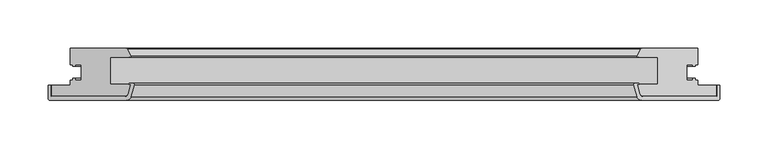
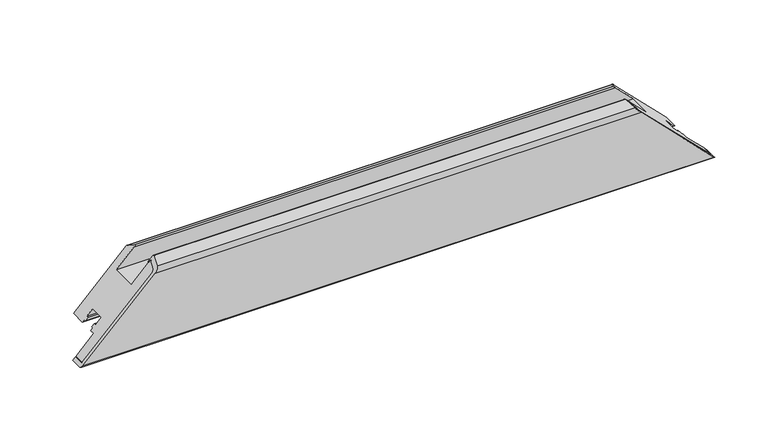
"""IFC4 building model written with IfcOpenShell, lengths in millimetres: proxy geometry, Weiku - Montante - Folha 02.2.01.018 : Weiku - Montante - Folha 02.2.01.018."""

from ifc_helpers import new_model, si_unit, frame, origin, place, context, project, spatial, polyline, ellipse_curve, source, transform, mapped, element, save
from ifc_brep_helpers import plane_surface, cylinder_surface, revolved_surface, advanced_brep


def generic_models_07a8e8d2(model_context):
    return source(origin(), model_context, "Body", "AdvancedBrep", [
        advanced_brep(
        [(345.25, -50.0, 0.0), (-345.25, -50.0, 0.0), (-268.2497332, -50.0, 77.0002668), (268.2497332, -50.0, 77.0002668), (-265.3519557, -47.7764571, 79.8980443), (265.3519557, -47.7764571, 79.8980443), (-262.7670371, -38.1294095, 82.4829629), (262.7670371, -38.1294095, 82.4829629), (-263.25, -37.5, 82.0), (263.25, -37.5, 82.0), (-264.1060102, -37.5, 81.1439898), (264.1060102, -37.5, 81.1439898), (-264.1060102, -36.5, 81.1439898), (264.1060102, -36.5, 81.1439898), (-259.4925588, -36.5, 85.7574412), (259.4925588, -36.5, 85.7574412), (-258.5266329, -37.758819, 86.7233671), (258.5266329, -37.758819, 86.7233671), (-261.8854501, -50.2940952, 83.3645499), (261.8854501, -50.2940952, 83.3645499), (-266.7150792, -54.0, 78.5349208), (266.7150792, -54.0, 78.5349208), (-346.25, -54.0, -1.0), (346.25, -54.0, -1.0), (-348.25, -52.0, -3.0), (348.25, -52.0, -3.0), (-348.25, -38.5, -3.0), (348.25, -38.5, -3.0), (-345.25, -38.5, 0.0), (345.25, -38.5, 0.0)],
        [
            (0, 1),
            (1, 2),
            (2, 3),
            (3, 0),
            (2, 4, ellipse_curve(frame((-268.2497332, -47.0, 77.0002668), z_axis=(-0.7071067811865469, 0.0, 0.7071067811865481), x_axis=(0.7071067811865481, 0.0, 0.7071067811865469)), 4.2426407, 3.0)),
            (4, 5),
            (5, 3, ellipse_curve(frame((268.2497332, -47.0, 77.0002668), z_axis=(0.707106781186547, 0.0, 0.7071067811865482), x_axis=(0.7071067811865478, 0.0, -0.707106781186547)), 4.2426407, 3.0)),
            (4, 6),
            (6, 7),
            (7, 5),
            (6, 8, ellipse_curve(frame((-263.25, -38.0, 82.0), z_axis=(-0.7071067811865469, 0.0, 0.7071067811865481), x_axis=(0.7071067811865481, 0.0, 0.7071067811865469)), 0.7071068, 0.5)),
            (8, 9),
            (9, 7, ellipse_curve(frame((263.25, -38.0, 82.0), z_axis=(0.707106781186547, 0.0, 0.7071067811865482), x_axis=(0.7071067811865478, 0.0, -0.707106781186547)), 0.7071068, 0.5)),
            (8, 10),
            (10, 11),
            (11, 9),
            (10, 12, ellipse_curve(frame((-264.1060102, -37.0, 81.1439898), z_axis=(0.7071067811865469, 0.0, -0.7071067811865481), x_axis=(-0.7071067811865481, 0.0, -0.7071067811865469)), 0.7071068, 0.5)),
            (12, 13),
            (13, 11, ellipse_curve(frame((264.1060102, -37.0, 81.1439898), z_axis=(-0.707106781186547, 0.0, -0.7071067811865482), x_axis=(-0.7071067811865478, 0.0, 0.707106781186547)), 0.7071068, 0.5)),
            (12, 14),
            (14, 15),
            (15, 13),
            (14, 16, ellipse_curve(frame((-259.4925588, -37.5, 85.7574412), z_axis=(0.7071067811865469, 0.0, -0.7071067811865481), x_axis=(-0.7071067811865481, 0.0, -0.7071067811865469)), 1.4142136, 1.0)),
            (16, 17),
            (17, 15, ellipse_curve(frame((259.4925588, -37.5, 85.7574412), z_axis=(-0.707106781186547, 0.0, -0.7071067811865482), x_axis=(-0.7071067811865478, 0.0, 0.707106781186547)), 1.4142136, 1.0)),
            (16, 18),
            (18, 19),
            (19, 17),
            (18, 20, ellipse_curve(frame((-266.7150792, -49.0, 78.5349208), z_axis=(0.7071067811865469, 0.0, -0.7071067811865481), x_axis=(-0.7071067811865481, 0.0, -0.7071067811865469)), 7.0710678, 5.0)),
            (20, 21),
            (21, 19, ellipse_curve(frame((266.7150792, -49.0, 78.5349208), z_axis=(-0.707106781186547, 0.0, -0.7071067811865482), x_axis=(-0.7071067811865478, 0.0, 0.707106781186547)), 7.0710678, 5.0)),
            (20, 22),
            (22, 23),
            (23, 21),
            (22, 24, ellipse_curve(frame((-346.25, -52.0, -1.0), z_axis=(0.7071067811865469, 0.0, -0.7071067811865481), x_axis=(-0.7071067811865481, 0.0, -0.7071067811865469)), 2.8284271, 2.0)),
            (24, 25),
            (25, 23, ellipse_curve(frame((346.25, -52.0, -1.0), z_axis=(-0.707106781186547, 0.0, -0.7071067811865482), x_axis=(-0.7071067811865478, 0.0, 0.707106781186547)), 2.8284271, 2.0)),
            (24, 26),
            (26, 27),
            (27, 25),
            (26, 28),
            (28, 29),
            (29, 27),
            (28, 1),
            (0, 29),
        ],
        [
            plane_surface(frame((-365.25, -50.0, 0.0), z_axis=(0.0, 1.0, 0.0), x_axis=(1.0, 0.0, 0.0))),
            revolved_surface(polyline([(271.24973320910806, -50.0, 77.0002668), (-271.24973320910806, -50.0, 77.0002668)]), (-365.25, -47.0, 77.0002668), (1.0, 0.0, 0.0)),
            plane_surface(frame((-365.25, -47.7764571, 79.8980443), z_axis=(0.0, 0.2588190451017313, -0.9659258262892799), x_axis=(1.0, 0.0, 0.0))),
            revolved_surface(polyline([(263.75000001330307, -38.5, 82.0), (-263.7500000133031, -38.5, 82.0)]), (-365.25, -38.0, 82.0), (1.0, 0.0, 0.0)),
            plane_surface(frame((-365.25, -37.5, 82.0), z_axis=(0.0, -1.0, 0.0), x_axis=(1.0, 0.0, 0.0))),
            cylinder_surface(frame((-365.25, -37.0, 81.1439898), z_axis=(-1.0, 0.0, 0.0), x_axis=(0.0, -1.0, 0.0)), 0.5),
            plane_surface(frame((-365.25, -36.5, 81.1439898), z_axis=(0.0, 1.0, 0.0), x_axis=(1.0, 0.0, 0.0))),
            cylinder_surface(frame((-365.25, -37.5, 85.7574412), z_axis=(-1.0, 0.0, 0.0), x_axis=(0.0, -1.0, 0.0)), 1.0),
            plane_surface(frame((-365.25, -37.758819, 86.7233671), z_axis=(0.0, -0.25881904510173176, 0.9659258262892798), x_axis=(1.0, 0.0, 0.0))),
            cylinder_surface(frame((-365.25, -49.0, 78.5349208), z_axis=(-1.0, 0.0, 0.0), x_axis=(0.0, -1.0, 0.0)), 5.0),
            plane_surface(frame((-365.25, -54.0, 78.5349208), z_axis=(0.0, -1.0, 0.0), x_axis=(1.0, 0.0, 0.0))),
            cylinder_surface(frame((-365.25, -52.0, -1.0), z_axis=(-1.0, 0.0, 0.0), x_axis=(0.0, -1.0, 0.0)), 2.0),
            plane_surface(frame((-365.25, -52.0, -3.0), z_axis=(0.0, 0.0, -1.0), x_axis=(1.0, 0.0, 0.0))),
            plane_surface(frame((-365.25, -38.5, -3.0), z_axis=(0.0, 1.0, 0.0), x_axis=(1.0, 0.0, 0.0))),
            plane_surface(frame((-365.25, -38.5, 0.0), z_axis=(0.0, 0.0, 1.0), x_axis=(1.0, 0.0, 0.0))),
            plane_surface(frame((255.25, 0.0, 90.0), z_axis=(0.707106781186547, 0.0, 0.7071067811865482), x_axis=(0.0, -1.0, 0.0))),
            plane_surface(frame((-373.5342712, 0.0, -28.2842712), z_axis=(-0.7071067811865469, 0.0, 0.7071067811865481), x_axis=(0.0, -1.0, 0.0))),
        ],
        [
            (0, [[1, 2, 3, 4]]),
            (1, [[-3, 5, 6, 7]]),
            (2, [[-6, 8, 9, 10]]),
            (3, [[-9, 11, 12, 13]]),
            (4, [[-12, 14, 15, 16]]),
            (5, [[-15, 17, 18, 19]]),
            (6, [[-18, 20, 21, 22]]),
            (7, [[-21, 23, 24, 25]]),
            (8, [[-24, 26, 27, 28]]),
            (9, [[-27, 29, 30, 31]]),
            (10, [[-30, 32, 33, 34]]),
            (11, [[-33, 35, 36, 37]]),
            (12, [[-36, 38, 39, 40]]),
            (13, [[-39, 41, 42, 43]]),
            (14, [[-42, 44, -1, 45]]),
            (15, [[-7, -10, -13, -16, -19, -22, -25, -28, -31, -34, -37, -40, -43, -45, -4]]),
            (16, [[-44, -41, -38, -35, -32, -29, -26, -23, -20, -17, -14, -11, -8, -5, -2]]),
        ],
    ),
        advanced_brep(
        [(345.25, -50.0, 0.0), (268.2497332, -50.0, 77.0002668), (-268.2497332, -50.0, 77.0002668), (-345.25, -50.0, 0.0), (-345.25, -38.5, 0.0), (345.25, -38.5, 0.0), (-267.2372264, 0.0, 78.0127736), (267.2372264, 0.0, 78.0127736), (325.25, 0.0, 20.0), (-325.25, 0.0, 20.0), (-265.3519557, -47.7764571, 79.8980443), (-262.7670371, -38.1294095, 82.4829629), (-263.25, -37.5, 82.0), (-283.75, -37.5, 61.5), (-283.75, -9.5, 61.5), (-263.9634285, -9.5, 81.2865715), (-262.8012796, -7.617411, 82.4487204), (-266.3432657, -0.5518546, 78.9067343), (-325.25, -16.9, 20.0), (-323.05, -16.9, 22.2), (-323.05, -18.9, 22.2), (-320.25, -18.9, 25.0), (-320.25, -16.9, 25.0), (-313.75, -16.9, 31.5), (-313.75, -33.1, 31.5), (-320.25, -33.1, 25.0), (-320.25, -31.1, 25.0), (-323.05, -31.1, 22.2), (-323.05, -33.1, 22.2), (-325.25, -33.1, 20.0), (-325.25, -38.5, 20.0), (325.25, -38.5, 20.0), (325.25, -33.1, 20.0), (323.05, -33.1, 22.2), (323.05, -31.1, 22.2), (320.25, -31.1, 25.0), (320.25, -33.1, 25.0), (313.75, -33.1, 31.5), (313.75, -16.9, 31.5), (320.25, -16.9, 25.0), (320.25, -18.9, 25.0), (323.05, -18.9, 22.2), (323.05, -16.9, 22.2), (325.25, -16.9, 20.0), (266.3432657, -0.5518546, 78.9067343), (262.8012796, -7.617411, 82.4487204), (263.9634285, -9.5, 81.2865715), (283.75, -9.5, 61.5), (283.75, -37.5, 61.5), (263.25, -37.5, 82.0), (262.7670371, -38.1294095, 82.4829629), (265.3519557, -47.7764571, 79.8980443)],
        [
            (0, 1),
            (1, 2),
            (2, 3),
            (3, 0),
            (3, 4),
            (4, 5),
            (5, 0),
            (6, 7),
            (7, 8),
            (8, 9),
            (9, 6),
            (2, 10, ellipse_curve(frame((-268.2497332, -47.0, 77.0002668), z_axis=(-0.7071067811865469, 0.0, 0.7071067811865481), x_axis=(-0.7071067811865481, 0.0, -0.7071067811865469)), 4.2426407, 3.0)),
            (10, 11),
            (11, 12, ellipse_curve(frame((-263.25, -38.0, 82.0), z_axis=(-0.7071067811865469, 0.0, 0.7071067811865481), x_axis=(-0.7071067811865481, 0.0, -0.7071067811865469)), 0.7071068, 0.5)),
            (12, 13),
            (13, 14),
            (14, 15),
            (15, 16, ellipse_curve(frame((-263.9634285, -8.2, 81.2865715), z_axis=(-0.7071067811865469, 0.0, 0.7071067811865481), x_axis=(-0.7071067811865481, 0.0, -0.7071067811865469)), 1.8384776, 1.3)),
            (16, 17),
            (17, 6, ellipse_curve(frame((-267.2372264, -1.0, 78.0127736), z_axis=(-0.7071067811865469, 0.0, 0.7071067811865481), x_axis=(-0.7071067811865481, 0.0, -0.7071067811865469)), 1.4142136, 1.0)),
            (9, 18),
            (18, 19),
            (19, 20),
            (20, 21),
            (21, 22),
            (22, 23),
            (23, 24),
            (24, 25),
            (25, 26),
            (26, 27),
            (27, 28),
            (28, 29),
            (29, 30),
            (30, 4),
            (5, 31),
            (31, 32),
            (32, 33),
            (33, 34),
            (34, 35),
            (35, 36),
            (36, 37),
            (37, 38),
            (38, 39),
            (39, 40),
            (40, 41),
            (41, 42),
            (42, 43),
            (43, 8),
            (7, 44, ellipse_curve(frame((267.2372264, -1.0, 78.0127736), z_axis=(0.707106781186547, 0.0, 0.7071067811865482), x_axis=(-0.7071067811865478, 0.0, 0.707106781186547)), 1.4142136, 1.0)),
            (44, 45),
            (45, 46, ellipse_curve(frame((263.9634285, -8.2, 81.2865715), z_axis=(0.707106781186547, 0.0, 0.7071067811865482), x_axis=(-0.7071067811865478, 0.0, 0.707106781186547)), 1.8384776, 1.3)),
            (46, 47),
            (47, 48),
            (48, 49),
            (49, 50, ellipse_curve(frame((263.25, -38.0, 82.0), z_axis=(0.707106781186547, 0.0, 0.7071067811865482), x_axis=(-0.7071067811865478, 0.0, 0.707106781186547)), 0.7071068, 0.5)),
            (50, 51),
            (51, 1, ellipse_curve(frame((268.2497332, -47.0, 77.0002668), z_axis=(0.707106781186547, 0.0, 0.7071067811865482), x_axis=(-0.7071067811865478, 0.0, 0.707106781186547)), 4.2426407, 3.0)),
            (17, 44),
            (16, 45),
            (15, 46),
            (14, 47),
            (13, 48),
            (12, 49),
            (11, 50),
            (10, 51),
            (30, 31),
            (29, 32),
            (28, 33),
            (27, 34),
            (26, 35),
            (25, 36),
            (24, 37),
            (23, 38),
            (22, 39),
            (21, 40),
            (20, 41),
            (19, 42),
            (18, 43),
        ],
        [
            plane_surface(frame((-345.25, -50.0, 77.0002668), z_axis=(0.0, -1.0, 0.0), x_axis=(1.0, 0.0, 0.0))),
            plane_surface(frame((-345.25, -50.0, 0.0), z_axis=(0.0, 0.0, -1.0), x_axis=(1.0, 0.0, 0.0))),
            plane_surface(frame((-345.25, 0.0, 20.0), z_axis=(0.0, 1.0, 0.0), x_axis=(1.0, 0.0, 0.0))),
            plane_surface(frame((-373.5342712, 0.0, -28.2842712), z_axis=(-0.7071067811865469, 0.0, 0.7071067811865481), x_axis=(0.0, -1.0, 0.0))),
            plane_surface(frame((255.25, 0.0, 90.0), z_axis=(0.707106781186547, 0.0, 0.7071067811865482), x_axis=(0.0, -1.0, 0.0))),
            cylinder_surface(frame((-345.25, -1.0, 78.0127736), z_axis=(-1.0, 0.0, 0.0), x_axis=(0.0, -1.0, 0.0)), 1.0),
            plane_surface(frame((-345.25, -0.5518546, 78.9067343), z_axis=(0.0, 0.4481453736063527, 0.8939606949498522), x_axis=(1.0, 0.0, 0.0))),
            cylinder_surface(frame((-345.25, -8.2, 81.2865715), z_axis=(-1.0, 0.0, 0.0), x_axis=(0.0, -1.0, 0.0)), 1.3),
            plane_surface(frame((-345.25, -9.5, 81.2865715), z_axis=(0.0, -1.0, 0.0), x_axis=(1.0, 0.0, 0.0))),
            plane_surface(frame((-345.25, -9.5, 61.5), z_axis=(0.0, 0.0, 1.0), x_axis=(1.0, 0.0, 0.0))),
            plane_surface(frame((-345.25, -37.5, 61.5), z_axis=(0.0, 1.0, 0.0), x_axis=(1.0, 0.0, 0.0))),
            cylinder_surface(frame((-345.25, -38.0, 82.0), z_axis=(-1.0, 0.0, 0.0), x_axis=(0.0, -1.0, 0.0)), 0.5),
            plane_surface(frame((-345.25, -38.1294095, 82.4829629), z_axis=(0.0, -0.2588190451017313, 0.9659258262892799), x_axis=(1.0, 0.0, 0.0))),
            cylinder_surface(frame((-345.25, -47.0, 77.0002668), z_axis=(-1.0, 0.0, 0.0), x_axis=(0.0, -1.0, 0.0)), 3.0),
            plane_surface(frame((-345.25, -38.5, 0.0), z_axis=(0.0, 1.0, 0.0), x_axis=(1.0, 0.0, 0.0))),
            plane_surface(frame((-345.25, -38.5, 20.0), z_axis=(0.0, 0.0, -1.0), x_axis=(1.0, 0.0, 0.0))),
            plane_surface(frame((-345.25, -33.1, 20.0), z_axis=(0.0, 1.0, 0.0), x_axis=(1.0, 0.0, 0.0))),
            plane_surface(frame((-345.25, -33.1, 22.2), z_axis=(0.0, 0.0, -1.0), x_axis=(1.0, 0.0, 0.0))),
            plane_surface(frame((-345.25, -31.1, 22.2), z_axis=(0.0, 1.0, 0.0), x_axis=(1.0, 0.0, 0.0))),
            plane_surface(frame((-345.25, -31.1, 25.0), z_axis=(0.0, 0.0, 1.0), x_axis=(1.0, 0.0, 0.0))),
            plane_surface(frame((-345.25, -33.1, 25.0), z_axis=(0.0, 1.0, 0.0), x_axis=(1.0, 0.0, 0.0))),
            plane_surface(frame((-345.25, -33.1, 31.5), z_axis=(0.0, 0.0, -1.0), x_axis=(1.0, 0.0, 0.0))),
            plane_surface(frame((-345.25, -16.9, 31.5), z_axis=(0.0, -1.0, 0.0), x_axis=(1.0, 0.0, 0.0))),
            plane_surface(frame((-345.25, -16.9, 25.0), z_axis=(0.0, 0.0, 1.0), x_axis=(1.0, 0.0, 0.0))),
            plane_surface(frame((-345.25, -18.9, 25.0), z_axis=(0.0, -1.0, 0.0), x_axis=(1.0, 0.0, 0.0))),
            plane_surface(frame((-345.25, -18.9, 22.2), z_axis=(0.0, 0.0, -1.0), x_axis=(1.0, 0.0, 0.0))),
            plane_surface(frame((-345.25, -16.9, 22.2), z_axis=(0.0, -1.0, 0.0), x_axis=(1.0, 0.0, 0.0))),
            plane_surface(frame((-345.25, -16.9, 20.0), z_axis=(0.0, 0.0, -1.0), x_axis=(1.0, 0.0, 0.0))),
        ],
        [
            (0, [[1, 2, 3, 4]]),
            (1, [[5, 6, 7, -4]]),
            (2, [[8, 9, 10, 11]]),
            (3, [[12, 13, 14, 15, 16, 17, 18, 19, 20, -11, 21, 22, 23, 24, 25, 26, 27, 28, 29, 30, 31, 32, 33, 34, -5, -3]]),
            (4, [[-7, 35, 36, 37, 38, 39, 40, 41, 42, 43, 44, 45, 46, 47, 48, -9, 49, 50, 51, 52, 53, 54, 55, 56, 57, -1]]),
            (5, [[58, -49, -8, -20]]),
            (6, [[59, -50, -58, -19]]),
            (7, [[60, -51, -59, -18]]),
            (8, [[61, -52, -60, -17]]),
            (9, [[62, -53, -61, -16]]),
            (10, [[63, -54, -62, -15]]),
            (11, [[64, -55, -63, -14]]),
            (12, [[65, -56, -64, -13]]),
            (13, [[-2, -57, -65, -12]]),
            (14, [[-34, 66, -35, -6]]),
            (15, [[67, -36, -66, -33]]),
            (16, [[68, -37, -67, -32]]),
            (17, [[69, -38, -68, -31]]),
            (18, [[70, -39, -69, -30]]),
            (19, [[71, -40, -70, -29]]),
            (20, [[72, -41, -71, -28]]),
            (21, [[73, -42, -72, -27]]),
            (22, [[74, -43, -73, -26]]),
            (23, [[75, -44, -74, -25]]),
            (24, [[76, -45, -75, -24]]),
            (25, [[77, -46, -76, -23]]),
            (26, [[78, -47, -77, -22]]),
            (27, [[-10, -48, -78, -21]]),
        ],
    ),
    ])


if __name__ == "__main__":
    model = new_model("IFC4")
    model_context = context("Model", 3, world=origin())
    ifc_project = project(units=[si_unit("LENGTHUNIT", "METRE", prefix="MILLI")], contexts=[model_context])
    site = spatial("IfcSite", under=ifc_project)
    building = spatial("IfcBuilding", under=site)
    placement = place(None, origin())
    generic_models_shape = generic_models_07a8e8d2(model_context)
    element("IfcBuildingElementProxy", 1, Name="Weiku - Montante - Folha 02.2.01.018 : Weiku - Montante - Folha 02.2.01.018", ObjectType="Weiku - Montante - Folha 02.2.01.018 : Weiku - Montante - Folha 02.2.01.018", at=placement, inside=building, context=model_context, shape_type="MappedRepresentation", body=[
        mapped(generic_models_shape, transform((0.0, 0.0, 0.0), x_axis=(1.0, 0.0, 0.0), y_axis=(0.0, 1.0, 0.0), z_axis=(0.0, 0.0, 1.0))),
    ])
    save(model, "model.ifc")
